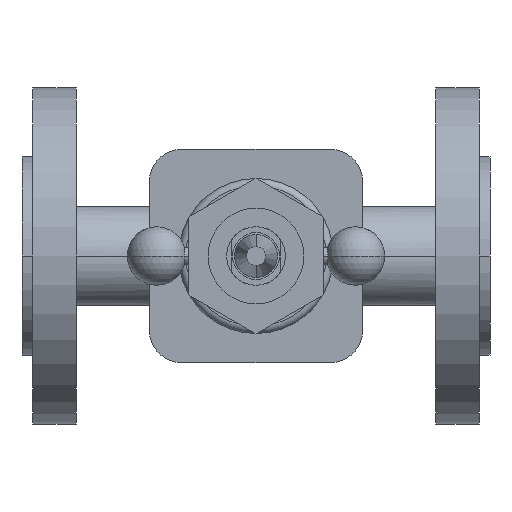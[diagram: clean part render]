
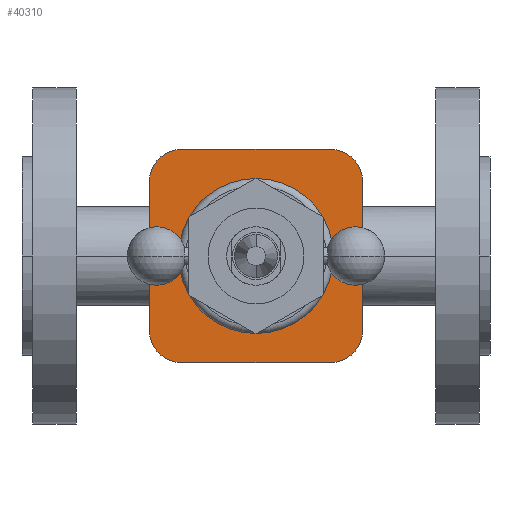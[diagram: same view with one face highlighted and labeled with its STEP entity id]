
A CAD part, front view. The second image highlights one B-rep face of the part: STEP entity #40310.
In plain terms, the highlighted planar face has unit normal (0, -1, 0).
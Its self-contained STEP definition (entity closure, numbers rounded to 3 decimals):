
#15210=CARTESIAN_POINT('',(53.5,-70.,0.));
#15220=VERTEX_POINT('',#15210);
#15300=CARTESIAN_POINT('',(106.5,-70.,0.));
#15310=VERTEX_POINT('',#15300);
#15340=CARTESIAN_POINT('',(80.,-70.,0.));
#15350=DIRECTION('',(0.,-1.,0.));
#15360=DIRECTION('',(-1.,0.,0.));
#15370=AXIS2_PLACEMENT_3D('',#15340,#15350,#15360);
#15380=CIRCLE('',#15370,26.5);
#15390=EDGE_CURVE('',#15220,#15310,#15380,.T.);
#39510=CARTESIAN_POINT('',(42.75,-70.,0.));
#39520=DIRECTION('',(0.,-1.,0.));
#39530=DIRECTION('',(-1.,0.,0.));
#39540=AXIS2_PLACEMENT_3D('',#39510,#39520,#39530);
#39550=PLANE('',#39540);
#39560=CARTESIAN_POINT('',(54.544,-70.,25.456));
#39570=DIRECTION('',(0.,-1.,0.));
#39580=DIRECTION('',(-1.,0.,0.));
#39590=AXIS2_PLACEMENT_3D('',#39560,#39570,#39580);
#39600=CIRCLE('',#39590,11.);
#39610=CARTESIAN_POINT('',(54.544,-70.,36.456));
#39620=VERTEX_POINT('',#39610);
#39630=CARTESIAN_POINT('',(43.544,-70.,25.456));
#39640=VERTEX_POINT('',#39630);
#39650=EDGE_CURVE('',#39620,#39640,#39600,.T.);
#39660=ORIENTED_EDGE('',*,*,#39650,.T.);
#39670=CARTESIAN_POINT('',(48.647,-70.,36.456));
#39680=DIRECTION('',(-1.,0.,0.));
#39690=VECTOR('',#39680,1.);
#39700=LINE('',#39670,#39690);
#39710=CARTESIAN_POINT('',(105.456,-70.,36.456));
#39720=VERTEX_POINT('',#39710);
#39730=EDGE_CURVE('',#39720,#39620,#39700,.T.);
#39740=ORIENTED_EDGE('',*,*,#39730,.T.);
#39750=CARTESIAN_POINT('',(105.456,-70.,25.456));
#39760=DIRECTION('',(0.,-1.,0.));
#39770=DIRECTION('',(0.,0.,1.));
#39780=AXIS2_PLACEMENT_3D('',#39750,#39760,#39770);
#39790=CIRCLE('',#39780,11.);
#39800=CARTESIAN_POINT('',(116.456,-70.,25.456));
#39810=VERTEX_POINT('',#39800);
#39820=EDGE_CURVE('',#39810,#39720,#39790,.T.);
#39830=ORIENTED_EDGE('',*,*,#39820,.T.);
#39840=CARTESIAN_POINT('',(116.456,-70.,12.728));
#39850=DIRECTION('',(0.,0.,1.));
#39860=VECTOR('',#39850,1.);
#39870=LINE('',#39840,#39860);
#39880=CARTESIAN_POINT('',(116.456,-70.,-25.456));
#39890=VERTEX_POINT('',#39880);
#39900=EDGE_CURVE('',#39890,#39810,#39870,.T.);
#39910=ORIENTED_EDGE('',*,*,#39900,.T.);
#39920=CARTESIAN_POINT('',(105.456,-70.,-25.456));
#39930=DIRECTION('',(0.,-1.,0.));
#39940=DIRECTION('',(1.,0.,0.));
#39950=AXIS2_PLACEMENT_3D('',#39920,#39930,#39940);
#39960=CIRCLE('',#39950,11.);
#39970=CARTESIAN_POINT('',(105.456,-70.,-36.456));
#39980=VERTEX_POINT('',#39970);
#39990=EDGE_CURVE('',#39980,#39890,#39960,.T.);
#40000=ORIENTED_EDGE('',*,*,#39990,.T.);
#40010=CARTESIAN_POINT('',(74.103,-70.,-36.456));
#40020=DIRECTION('',(1.,0.,0.));
#40030=VECTOR('',#40020,1.);
#40040=LINE('',#40010,#40030);
#40050=CARTESIAN_POINT('',(54.544,-70.,-36.456));
#40060=VERTEX_POINT('',#40050);
#40070=EDGE_CURVE('',#40060,#39980,#40040,.T.);
#40080=ORIENTED_EDGE('',*,*,#40070,.T.);
#40090=CARTESIAN_POINT('',(54.544,-70.,-25.456));
#40100=DIRECTION('',(0.,-1.,0.));
#40110=DIRECTION('',(0.,0.,-1.));
#40120=AXIS2_PLACEMENT_3D('',#40090,#40100,#40110);
#40130=CIRCLE('',#40120,11.);
#40140=CARTESIAN_POINT('',(43.544,-70.,-25.456));
#40150=VERTEX_POINT('',#40140);
#40160=EDGE_CURVE('',#40150,#40060,#40130,.T.);
#40170=ORIENTED_EDGE('',*,*,#40160,.T.);
#40180=CARTESIAN_POINT('',(43.544,-70.,-12.728));
#40190=DIRECTION('',(0.,0.,-1.));
#40200=VECTOR('',#40190,1.);
#40210=LINE('',#40180,#40200);
#40220=EDGE_CURVE('',#39640,#40150,#40210,.T.);
#40230=ORIENTED_EDGE('',*,*,#40220,.T.);
#40240=EDGE_LOOP('',(#40230,#40170,#40080,#40000,#39910,#39830,#39740,
#39660));
#40250=FACE_OUTER_BOUND('',#40240,.T.);
#40260=EDGE_CURVE('',#15310,#15220,#15380,.T.);
#40270=ORIENTED_EDGE('',*,*,#40260,.F.);
#40280=ORIENTED_EDGE('',*,*,#15390,.F.);
#40290=EDGE_LOOP('',(#40280,#40270));
#40300=FACE_BOUND('',#40290,.T.);
#40310=ADVANCED_FACE('',(#40250,#40300),#39550,.T.);
